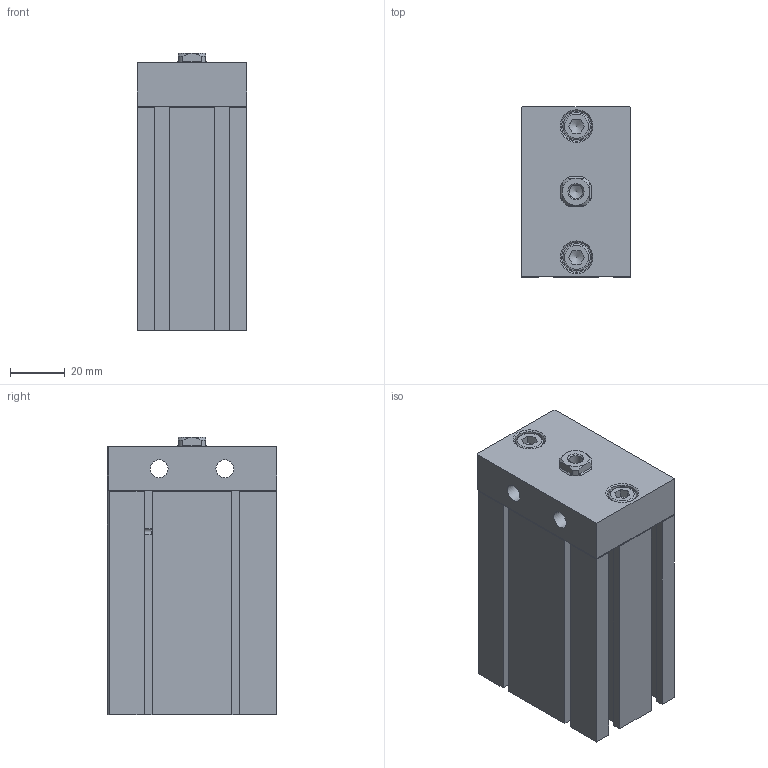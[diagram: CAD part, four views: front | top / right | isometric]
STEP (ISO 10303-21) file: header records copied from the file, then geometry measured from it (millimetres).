
FILE_DESCRIPTION((''),'2;1');
FILE_NAME('I:\3D電子目錄\氣缸\ND\ND\ND32\ND32x50.stp','2007-07-24T19:55:23',('Administrator'),(''),'Autodesk Inventor 11','Autodesk Inventor 11','');
FILE_SCHEMA(('AUTOMOTIVE_DESIGN { 1 0 10303 214 1 1 1 1 }'));
Length unit declared in the file: millimetre
Products named in the file (4): ND32; R 形環 34; ISO 4762 M6 x 16
Assembly tree (4 placements, depth 2):
  ND32
    ND32
    R 形環 34
    ISO 4762 M6 x 16  x2
Bounding box: 40 x 62.1 x 101.5 mm (x, y, z)
Volume: 213509.9 mm3; surface area: 42768.4 mm2
Topology: 5 solids, 5 shells, 195 faces, 479 edges, 305 vertices
Faces by surface type: plane 133, cylinder 25, cone 18, bspline 16, torus 3
Full cylindrical faces by diameter (mm): 1.9 x2, 2.2 x2, 6 x2, 6.5 x2, 10 x2, 11 x2, 23 x1, 34 x1, 36 x1
Entity records: 5301 total; most frequent: CARTESIAN_POINT 1111, DIRECTION 824, ORIENTED_EDGE 802, EDGE_CURVE 401, VECTOR 296, LINE 296, VERTEX_POINT 277, AXIS2_PLACEMENT_3D 264
